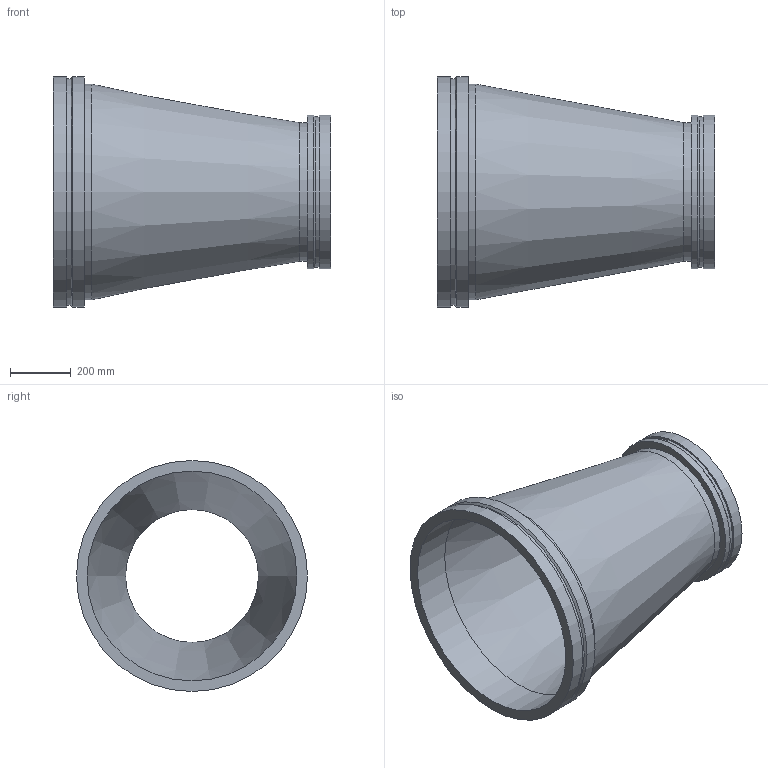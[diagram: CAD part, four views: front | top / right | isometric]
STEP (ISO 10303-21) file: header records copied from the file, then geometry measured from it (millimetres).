
FILE_DESCRIPTION(/* description */ ('VIC REDUCER CONCENTRIC No W50 VR','CAx-IF Rec.Pracs.---Representation and Presentation of Product Manufacturing Information (PMI)---4.0---2014-10-13'),/* implementation_level */ '2;1');
FILE_NAME(/* name */ 'C:\Users\kkamble\AppData\Roaming\Autodesk\ApplicationPlugins\Back Up\Victaulic_Vic-Ring_Reducer Concentric_No W50 VR (AGR)\Victaulic_Vic-Ring_Reducer Concentric_No W50 VR (AGR)_28.0x18.0 (700x450).stp',/* time_stamp */ '2020-09-10T11:46:06+05:00',/* author */ ('cps_temp'),/* organization */ ('Victaulic'),/* preprocessor_version */ 'ST-DEVELOPER v17.2',/* originating_system */ 'Autodesk Inventor 2019',/* authorisation */ '');
FILE_SCHEMA (('AP242_MANAGED_MODEL_BASED_3D_ENGINEERING_MIM_LF { 1 0 10303 442 1 1 4 }'));
Length unit declared in the file: inch
Products named in the file (1): W50 VR-28.0x18.0
Bounding box: 914.4 x 762 x 762 mm (x, y, z)
Volume: 24299218 mm3; surface area: 3659939.8 mm2
Topology: 1 solids, 1 shells, 20 faces, 54 edges, 40 vertices
Faces by surface type: cylinder 10, plane 6, cone 4
Full cylindrical faces by diameter (mm): 438.15 x1, 457.2 x1, 495.3 x1, 508 x2, 692.15 x1, 711.2 x1, 747.522 x1, 762 x2
Entity records: 830 total; most frequent: DIRECTION 162, CARTESIAN_POINT 132, ORIENTED_EDGE 108, AXIS2_PLACEMENT_3D 74, EDGE_CURVE 54, CIRCLE 40, VERTEX_POINT 40, EDGE_LOOP 26
